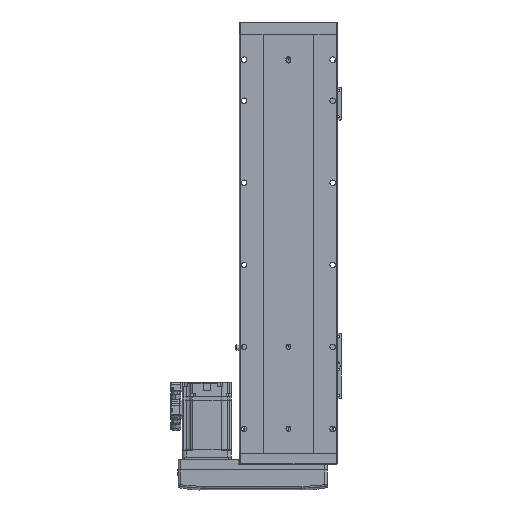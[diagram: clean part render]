
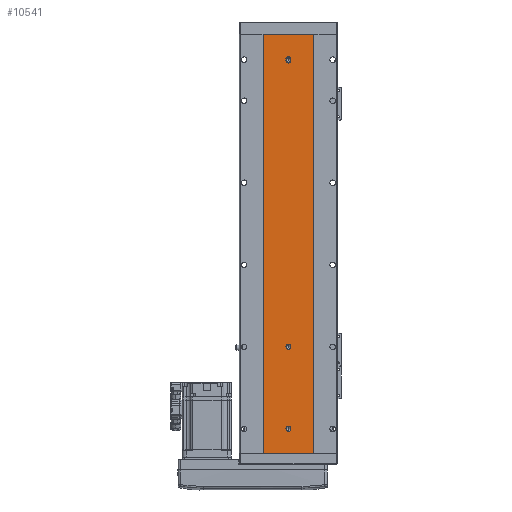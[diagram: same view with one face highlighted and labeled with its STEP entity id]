
A CAD part, front view. The second image highlights one B-rep face of the part: STEP entity #10541.
In plain terms, the highlighted planar face has unit normal (0, -1, 0).
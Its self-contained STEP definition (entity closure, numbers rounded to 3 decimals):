
#115 = DIRECTION ( 'NONE',  ( 0., 0., -1. ) ) ;
#1348 = VERTEX_POINT ( 'NONE', #41519 ) ;
#1969 = DIRECTION ( 'NONE',  ( 0., 0., 1. ) ) ;
#2905 = AXIS2_PLACEMENT_3D ( 'NONE', #20085, #75127, #29908 ) ;
#3329 = VERTEX_POINT ( 'NONE', #105920 ) ;
#6648 = DIRECTION ( 'NONE',  ( 1., 0., 0. ) ) ;
#7940 = EDGE_LOOP ( 'NONE', ( #73192, #82361 ) ) ;
#8148 = CARTESIAN_POINT ( 'NONE',  ( 3., 1., 481. ) ) ;
#8407 = DIRECTION ( 'NONE',  ( 0., 0., -1. ) ) ;
#10458 = CARTESIAN_POINT ( 'NONE',  ( -30., 1., 511. ) ) ;
#10541 = ADVANCED_FACE ( 'NONE', ( #83465, #98166, #23222, #26169 ), #83885, .F. ) ;
#10653 = DIRECTION ( 'NONE',  ( 1., 0., 0. ) ) ;
#11340 = CARTESIAN_POINT ( 'NONE',  ( 30., 1., 511. ) ) ;
#12312 = VERTEX_POINT ( 'NONE', #71798 ) ;
#13451 = DIRECTION ( 'NONE',  ( 0., 0., -1. ) ) ;
#13608 = CIRCLE ( 'NONE', #88259, 3. ) ;
#13882 = VERTEX_POINT ( 'NONE', #114096 ) ;
#14327 = EDGE_CURVE ( 'NONE', #13882, #23727, #121714, .T. ) ;
#14445 = CARTESIAN_POINT ( 'NONE',  ( -30., 1., 0. ) ) ;
#16281 = LINE ( 'NONE', #14445, #38206 ) ;
#16497 = EDGE_CURVE ( 'NONE', #12312, #76500, #117011, .T. ) ;
#17754 = CIRCLE ( 'NONE', #88359, 3. ) ;
#19395 = CARTESIAN_POINT ( 'NONE',  ( 0., 1., 130. ) ) ;
#19493 = CARTESIAN_POINT ( 'NONE',  ( 0., 1., 479. ) ) ;
#20085 = CARTESIAN_POINT ( 'NONE',  ( 0., 1., 30. ) ) ;
#21084 = DIRECTION ( 'NONE',  ( 0., 0., -1. ) ) ;
#23222 = FACE_BOUND ( 'NONE', #36780, .T. ) ;
#23727 = VERTEX_POINT ( 'NONE', #116885 ) ;
#24410 = VERTEX_POINT ( 'NONE', #65072 ) ;
#25188 = VERTEX_POINT ( 'NONE', #119153 ) ;
#25315 = VERTEX_POINT ( 'NONE', #80672 ) ;
#26169 = FACE_OUTER_BOUND ( 'NONE', #53816, .T. ) ;
#27468 = EDGE_CURVE ( 'NONE', #25315, #1348, #50811, .T. ) ;
#27542 = CARTESIAN_POINT ( 'NONE',  ( -30., 1., 511. ) ) ;
#27573 = AXIS2_PLACEMENT_3D ( 'NONE', #19493, #94660, #21084 ) ;
#28061 = ORIENTED_EDGE ( 'NONE', *, *, #37723, .F. ) ;
#29161 = ORIENTED_EDGE ( 'NONE', *, *, #16497, .F. ) ;
#29908 = DIRECTION ( 'NONE',  ( 0., 0., -1. ) ) ;
#30325 = CARTESIAN_POINT ( 'NONE',  ( -30., 1., 511. ) ) ;
#30348 = ORIENTED_EDGE ( 'NONE', *, *, #54657, .T. ) ;
#32447 = LINE ( 'NONE', #10458, #79514 ) ;
#36780 = EDGE_LOOP ( 'NONE', ( #107405, #28061 ) ) ;
#36906 = CARTESIAN_POINT ( 'NONE',  ( -30., 1., 511. ) ) ;
#37125 = ORIENTED_EDGE ( 'NONE', *, *, #69463, .F. ) ;
#37315 = ORIENTED_EDGE ( 'NONE', *, *, #94043, .T. ) ;
#37723 = EDGE_CURVE ( 'NONE', #1348, #25315, #60281, .T. ) ;
#38206 = VECTOR ( 'NONE', #6648, 1000. ) ;
#38827 = CARTESIAN_POINT ( 'NONE',  ( 0., 1., 127. ) ) ;
#41519 = CARTESIAN_POINT ( 'NONE',  ( 0., 1., 33. ) ) ;
#43259 = CARTESIAN_POINT ( 'NONE',  ( -3., 1., 479. ) ) ;
#46349 = ORIENTED_EDGE ( 'NONE', *, *, #92721, .F. ) ;
#48564 = DIRECTION ( 'NONE',  ( 0., -1., 0. ) ) ;
#50811 = CIRCLE ( 'NONE', #76809, 3. ) ;
#50887 = CARTESIAN_POINT ( 'NONE',  ( 0., 1., 133. ) ) ;
#53816 = EDGE_LOOP ( 'NONE', ( #37315, #37125, #67996, #30348 ) ) ;
#53926 = VECTOR ( 'NONE', #1969, 1000. ) ;
#54657 = EDGE_CURVE ( 'NONE', #78892, #25188, #32447, .T. ) ;
#55696 = DIRECTION ( 'NONE',  ( 0., -1., 0. ) ) ;
#57367 = VECTOR ( 'NONE', #58155, 1000. ) ;
#57917 = EDGE_CURVE ( 'NONE', #24410, #12312, #99454, .T. ) ;
#58155 = DIRECTION ( 'NONE',  ( 0., 0., -1. ) ) ;
#60281 = CIRCLE ( 'NONE', #2905, 3. ) ;
#60283 = CARTESIAN_POINT ( 'NONE',  ( 0., 1., 30. ) ) ;
#65072 = CARTESIAN_POINT ( 'NONE',  ( 0., 1., 476. ) ) ;
#67996 = ORIENTED_EDGE ( 'NONE', *, *, #112559, .F. ) ;
#69463 = EDGE_CURVE ( 'NONE', #3329, #83755, #79445, .T. ) ;
#71798 = CARTESIAN_POINT ( 'NONE',  ( 3., 1., 479. ) ) ;
#73181 = EDGE_LOOP ( 'NONE', ( #29161, #86134, #99480, #96206, #46349 ) ) ;
#73192 = ORIENTED_EDGE ( 'NONE', *, *, #92987, .F. ) ;
#74022 = DIRECTION ( 'NONE',  ( 0., 1., 0. ) ) ;
#74515 = DIRECTION ( 'NONE',  ( 0., -1., 0. ) ) ;
#74954 = VECTOR ( 'NONE', #10653, 1000. ) ;
#75127 = DIRECTION ( 'NONE',  ( 0., -1., 0. ) ) ;
#75488 = EDGE_CURVE ( 'NONE', #105485, #100369, #13608, .T. ) ;
#76159 = DIRECTION ( 'NONE',  ( 0., 0., -1. ) ) ;
#76500 = VERTEX_POINT ( 'NONE', #8148 ) ;
#76809 = AXIS2_PLACEMENT_3D ( 'NONE', #60283, #107459, #13451 ) ;
#78892 = VERTEX_POINT ( 'NONE', #36906 ) ;
#79445 = LINE ( 'NONE', #11340, #57367 ) ;
#79514 = VECTOR ( 'NONE', #76159, 1000. ) ;
#80672 = CARTESIAN_POINT ( 'NONE',  ( 0., 1., 27. ) ) ;
#82361 = ORIENTED_EDGE ( 'NONE', *, *, #75488, .F. ) ;
#83465 = FACE_BOUND ( 'NONE', #73181, .T. ) ;
#83755 = VERTEX_POINT ( 'NONE', #87550 ) ;
#83885 = PLANE ( 'NONE',  #89564 ) ;
#86134 = ORIENTED_EDGE ( 'NONE', *, *, #57917, .F. ) ;
#87550 = CARTESIAN_POINT ( 'NONE',  ( 30., 1., 0. ) ) ;
#88259 = AXIS2_PLACEMENT_3D ( 'NONE', #93084, #74515, #8407 ) ;
#88359 = AXIS2_PLACEMENT_3D ( 'NONE', #102930, #55696, #112280 ) ;
#89564 = AXIS2_PLACEMENT_3D ( 'NONE', #27542, #74022, #119957 ) ;
#91479 = CIRCLE ( 'NONE', #104673, 3. ) ;
#92721 = EDGE_CURVE ( 'NONE', #76500, #13882, #17754, .T. ) ;
#92987 = EDGE_CURVE ( 'NONE', #100369, #105485, #104311, .T. ) ;
#93084 = CARTESIAN_POINT ( 'NONE',  ( 0., 1., 130. ) ) ;
#94043 = EDGE_CURVE ( 'NONE', #25188, #83755, #16281, .T. ) ;
#94660 = DIRECTION ( 'NONE',  ( 0., -1., 0. ) ) ;
#96206 = ORIENTED_EDGE ( 'NONE', *, *, #14327, .F. ) ;
#98166 = FACE_BOUND ( 'NONE', #7940, .T. ) ;
#98566 = LINE ( 'NONE', #30325, #74954 ) ;
#99454 = CIRCLE ( 'NONE', #27573, 3. ) ;
#99480 = ORIENTED_EDGE ( 'NONE', *, *, #111437, .F. ) ;
#100369 = VERTEX_POINT ( 'NONE', #38827 ) ;
#102930 = CARTESIAN_POINT ( 'NONE',  ( 0., 1., 481. ) ) ;
#104311 = CIRCLE ( 'NONE', #118153, 3. ) ;
#104498 = CARTESIAN_POINT ( 'NONE',  ( 0., 1., 479. ) ) ;
#104673 = AXIS2_PLACEMENT_3D ( 'NONE', #104498, #48564, #113893 ) ;
#105406 = CARTESIAN_POINT ( 'NONE',  ( 3., 1., 479. ) ) ;
#105485 = VERTEX_POINT ( 'NONE', #50887 ) ;
#105920 = CARTESIAN_POINT ( 'NONE',  ( 30., 1., 511. ) ) ;
#107405 = ORIENTED_EDGE ( 'NONE', *, *, #27468, .F. ) ;
#107459 = DIRECTION ( 'NONE',  ( 0., -1., 0. ) ) ;
#108592 = DIRECTION ( 'NONE',  ( 0., 0., -1. ) ) ;
#111437 = EDGE_CURVE ( 'NONE', #23727, #24410, #91479, .T. ) ;
#112280 = DIRECTION ( 'NONE',  ( 0., 0., -1. ) ) ;
#112559 = EDGE_CURVE ( 'NONE', #78892, #3329, #98566, .T. ) ;
#113770 = DIRECTION ( 'NONE',  ( 0., -1., 0. ) ) ;
#113893 = DIRECTION ( 'NONE',  ( 0., 0., -1. ) ) ;
#114096 = CARTESIAN_POINT ( 'NONE',  ( -3., 1., 481. ) ) ;
#115816 = VECTOR ( 'NONE', #108592, 1000. ) ;
#116885 = CARTESIAN_POINT ( 'NONE',  ( -3., 1., 479. ) ) ;
#117011 = LINE ( 'NONE', #105406, #53926 ) ;
#118153 = AXIS2_PLACEMENT_3D ( 'NONE', #19395, #113770, #115 ) ;
#119153 = CARTESIAN_POINT ( 'NONE',  ( -30., 1., 0. ) ) ;
#119957 = DIRECTION ( 'NONE',  ( 0., 0., 1. ) ) ;
#121714 = LINE ( 'NONE', #43259, #115816 ) ;
